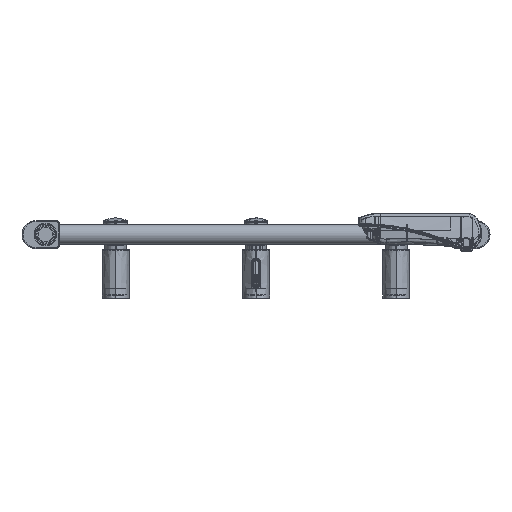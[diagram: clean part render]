
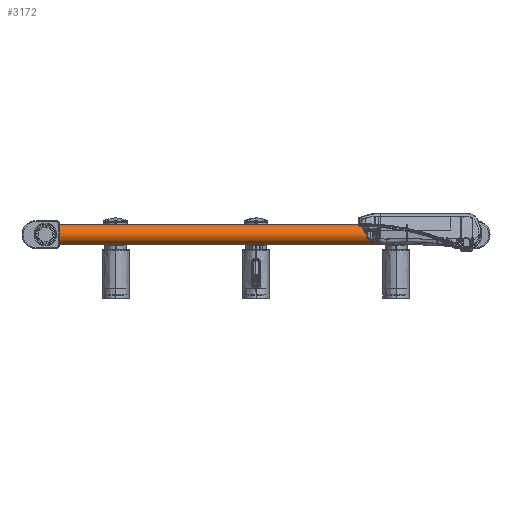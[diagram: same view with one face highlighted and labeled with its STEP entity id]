
A CAD part, front view. The second image highlights one B-rep face of the part: STEP entity #3172.
In plain terms, the highlighted cylindrical face has radius 11 mm (diameter 22 mm), a partial arc.
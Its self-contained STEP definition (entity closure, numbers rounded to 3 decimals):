
#320=CARTESIAN_POINT('',(210.,-858.,0.));
#321=DIRECTION('',(1.,0.,0.));
#322=DIRECTION('',(0.,0.,1.));
#323=AXIS2_PLACEMENT_3D('',#320,#321,#322);
#953=DIRECTION('',(1.,0.,0.));
#954=VECTOR('',#953,420.);
#955=CARTESIAN_POINT('',(-210.,-858.,-11.));
#956=LINE('',#955,#954);
#960=DIRECTION('',(1.,0.,0.));
#961=VECTOR('',#960,420.);
#962=CARTESIAN_POINT('',(-210.,-858.,11.));
#963=LINE('',#962,#961);
#1003=CARTESIAN_POINT('',(-210.,-858.,0.));
#1004=DIRECTION('',(1.,0.,0.));
#1005=DIRECTION('',(0.,0.,1.));
#1006=AXIS2_PLACEMENT_3D('',#1003,#1004,#1005);
#2329=CARTESIAN_POINT('',(-210.,-858.,-11.));
#2330=CARTESIAN_POINT('',(210.,-858.,-11.));
#2331=VERTEX_POINT('',#2329);
#2332=VERTEX_POINT('',#2330);
#2333=CARTESIAN_POINT('',(-210.,-858.,11.));
#2334=CARTESIAN_POINT('',(210.,-858.,11.));
#2335=VERTEX_POINT('',#2333);
#2336=VERTEX_POINT('',#2334);
#3160=CARTESIAN_POINT('',(-300.,-858.,0.));
#3161=DIRECTION('',(1.,0.,0.));
#3162=DIRECTION('',(0.,0.,-1.));
#3163=AXIS2_PLACEMENT_3D('',#3160,#3161,#3162);
#3164=CYLINDRICAL_SURFACE('',#3163,11.);
#3165=ORIENTED_EDGE('',*,*,#3150,.F.);
#3167=ORIENTED_EDGE('',*,*,#3166,.F.);
#3168=ORIENTED_EDGE('',*,*,#3153,.T.);
#3169=ORIENTED_EDGE('',*,*,#2785,.T.);
#3170=EDGE_LOOP('',(#3165,#3167,#3168,#3169));
#3171=FACE_OUTER_BOUND('',#3170,.F.);
#324=CIRCLE('',#323,11.);
#1007=CIRCLE('',#1006,11.);
#2785=EDGE_CURVE('',#2336,#2332,#324,.T.);
#3150=EDGE_CURVE('',#2331,#2332,#956,.T.);
#3153=EDGE_CURVE('',#2335,#2336,#963,.T.);
#3166=EDGE_CURVE('',#2335,#2331,#1007,.T.);
#3172=ADVANCED_FACE('',(#3171),#3164,.T.);
